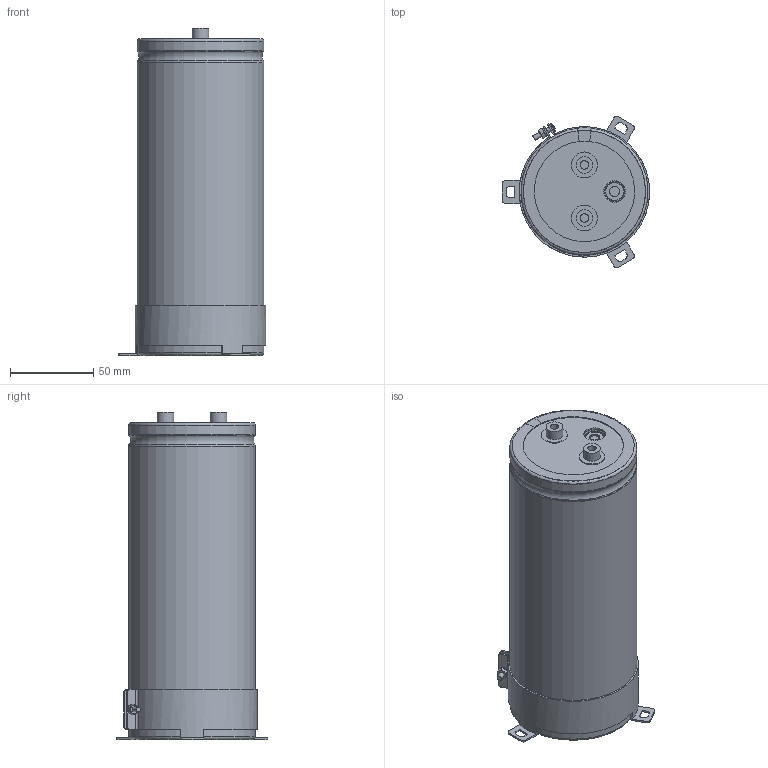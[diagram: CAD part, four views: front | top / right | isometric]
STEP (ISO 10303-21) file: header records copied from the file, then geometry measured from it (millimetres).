
FILE_DESCRIPTION(/* description */ (''),/* implementation_level */ '2;1');
FILE_NAME(/* name */ '76.2x190_Screw.stp',/* time_stamp */ '2017-09-17T13:39:06+09:00',/* author */ (''),/* organization */ (''),/* preprocessor_version */ 'ST-DEVELOPER v16',/* originating_system */ 'SIEMENS PLM Software NX 11.0',/* authorisation */ '');
FILE_SCHEMA (('AUTOMOTIVE_DESIGN { 1 0 10303 214 3 1 1 1 }'));
Length unit declared in the file: millimetre
Products named in the file (1): 76.2x190_Screw
Bounding box: 88.3 x 90.75 x 196 mm (x, y, z)
Volume: 868856.4 mm3; surface area: 166175.6 mm2
Topology: 9 solids, 9 shells, 259 faces, 642 edges, 413 vertices
Faces by surface type: plane 112, cylinder 66, torus 49, cone 31, sphere 1
Full cylindrical faces by diameter (mm): 3 x5, 5 x2, 5.5 x2, 6 x4, 8 x1, 10 x2, 13 x2, 15.5 x2, 75 x2
Entity records: 8534 total; most frequent: CARTESIAN_POINT 2182, DIRECTION 1296, ORIENTED_EDGE 1214, EDGE_CURVE 607, AXIS2_PLACEMENT_3D 541, VERTEX_POINT 408, EDGE_LOOP 317, CIRCLE 281
